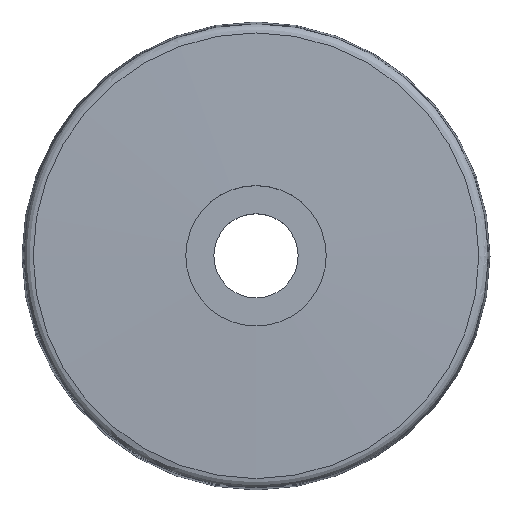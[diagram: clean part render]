
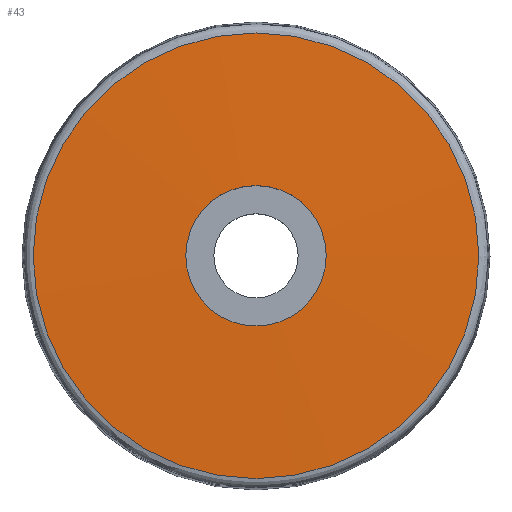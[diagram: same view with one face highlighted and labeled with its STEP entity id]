
A CAD part, top view. The second image highlights one B-rep face of the part: STEP entity #43.
In plain terms, the highlighted spherical face has radius 300 mm.
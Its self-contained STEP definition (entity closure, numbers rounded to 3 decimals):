
#37=SPHERICAL_SURFACE('',#120,300.);
#43=ADVANCED_FACE('',(#55,#56),#37,.T.);
#55=FACE_BOUND('',#69,.T.);
#56=FACE_BOUND('',#70,.T.);
#69=EDGE_LOOP('',(#83));
#70=EDGE_LOOP('',(#84));
#83=ORIENTED_EDGE('',*,*,#102,.F.);
#84=ORIENTED_EDGE('',*,*,#101,.T.);
#94=VERTEX_POINT('',#164);
#95=VERTEX_POINT('',#187);
#101=EDGE_CURVE('',#94,#94,#108,.T.);
#102=EDGE_CURVE('',#95,#95,#109,.T.);
#108=CIRCLE('',#118,11.905);
#109=CIRCLE('',#119,3.75);
#118=AXIS2_PLACEMENT_3D('',#163,#138,#139);
#119=AXIS2_PLACEMENT_3D('',#186,#140,#141);
#120=AXIS2_PLACEMENT_3D('',#188,#142,#143);
#138=DIRECTION('',(0.,0.,1.));
#139=DIRECTION('',(1.,0.,0.));
#140=DIRECTION('',(0.,0.,1.));
#141=DIRECTION('',(1.,0.,0.));
#142=DIRECTION('',(0.,0.,1.));
#143=DIRECTION('',(1.,0.,0.));
#163=CARTESIAN_POINT('',(0.,0.,7.087));
#164=CARTESIAN_POINT('',(11.905,0.,7.087));
#186=CARTESIAN_POINT('',(0.,0.,7.3));
#187=CARTESIAN_POINT('',(3.75,0.,7.3));
#188=CARTESIAN_POINT('',(0.,0.,-292.677));
